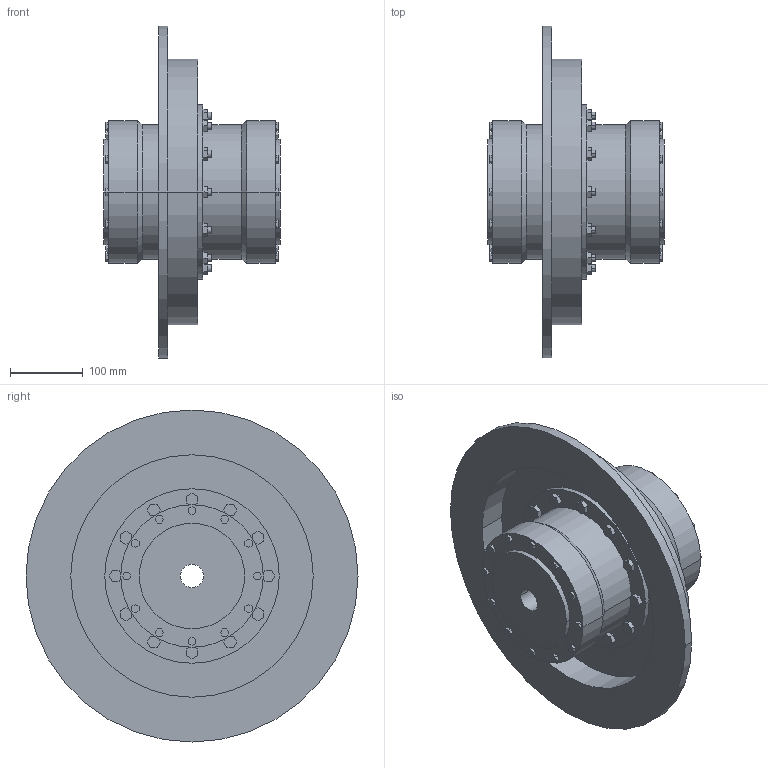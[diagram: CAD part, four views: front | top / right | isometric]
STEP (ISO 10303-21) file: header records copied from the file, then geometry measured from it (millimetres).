
FILE_DESCRIPTION((''),'2;1');
FILE_NAME('A19101200-0_ASM','2019-05-23T',('AB_Roschiwal'),('RENK AG'),'PRO/ENGINEER BY PARAMETRIC TECHNOLOGY CORPORATION, 2015440','PRO/ENGINEER BY PARAMETRIC TECHNOLOGY CORPORATION, 2015440','');
FILE_SCHEMA(('CONFIG_CONTROL_DESIGN'));
Length unit declared in the file: millimetre
Products named in the file (4): SBKT90_GEHAEUSE; SBKT90_NABE; SBKT90_BREMSSCHEIBE; A19101200-0_ASM
Assembly tree (4 placements, depth 2):
  A19101200-0_ASM
    SBKT90_GEHAEUSE
    SBKT90_NABE  x2
    SBKT90_BREMSSCHEIBE
Bounding box: 243 x 457 x 457 mm (x, y, z)
Volume: 8190959.7 mm3; surface area: 985397.6 mm2
Topology: 4 solids, 4 shells, 470 faces, 1156 edges, 768 vertices
Faces by surface type: plane 370, cylinder 96, cone 4
Entity records: 13604 total; most frequent: CARTESIAN_POINT 2350, ORIENTED_EDGE 2264, DIRECTION 2240, EDGE_CURVE 1132, VECTOR 956, LINE 956, VERTEX_POINT 752, AXIS2_PLACEMENT_3D 642
